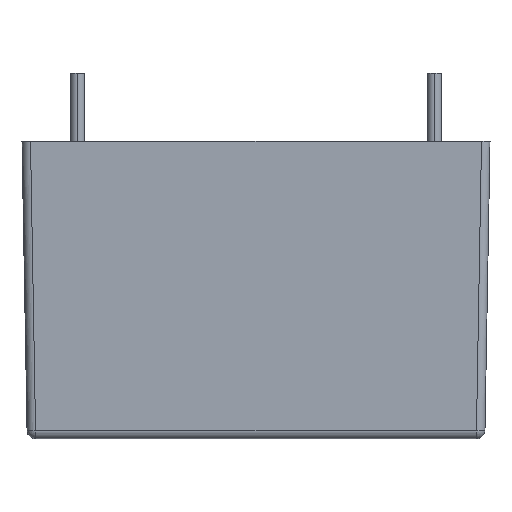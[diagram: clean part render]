
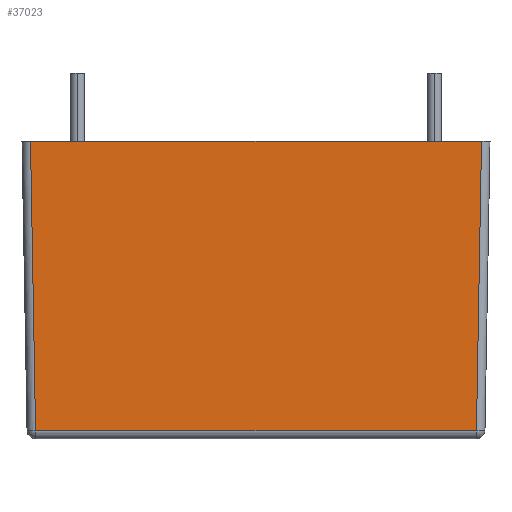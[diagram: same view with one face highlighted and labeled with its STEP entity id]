
A CAD part, left-side view. The second image highlights one B-rep face of the part: STEP entity #37023.
In plain terms, the highlighted planar face has unit normal (-1, 0, -0.018).
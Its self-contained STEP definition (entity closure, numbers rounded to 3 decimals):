
#36325 = EDGE_LOOP ( 'NONE', ( #37019, #37072, #36800, #36798 ) ) ;
#36331 = EDGE_CURVE ( 'NONE', #36854, #36566, #98131, .T. ) ;
#36566 = VERTEX_POINT ( 'NONE', #98229 ) ;
#36798 = ORIENTED_EDGE ( 'NONE', *, *, #36835, .T. ) ;
#36800 = ORIENTED_EDGE ( 'NONE', *, *, #36849, .T. ) ;
#36832 = VERTEX_POINT ( 'NONE', #98419 ) ;
#36833 = VERTEX_POINT ( 'NONE', #98310 ) ;
#36835 = EDGE_CURVE ( 'NONE', #36832, #36566, #98385, .T. ) ;
#36849 = EDGE_CURVE ( 'NONE', #36833, #36832, #98369, .T. ) ;
#36854 = VERTEX_POINT ( 'NONE', #98411 ) ;
#37019 = ORIENTED_EDGE ( 'NONE', *, *, #36331, .F. ) ;
#37023 = ADVANCED_FACE ( 'NONE', ( #98358 ), #98490, .T. ) ;
#37072 = ORIENTED_EDGE ( 'NONE', *, *, #37105, .T. ) ;
#37105 = EDGE_CURVE ( 'NONE', #36854, #36833, #98438, .T. ) ;
#98131 = LINE ( 'NONE', #98210, #98297 ) ;
#98208 = DIRECTION ( 'NONE',  ( 0., -1., 0. ) ) ;
#98210 = CARTESIAN_POINT ( 'NONE',  ( -18.501, 13.751, 16.7 ) ) ;
#98229 = CARTESIAN_POINT ( 'NONE',  ( -18.501, -13.252, 16.7 ) ) ;
#98297 = VECTOR ( 'NONE', #98208, 1000. ) ;
#98310 = CARTESIAN_POINT ( 'NONE',  ( -18.205, 12.955, -0.309 ) ) ;
#98358 = FACE_OUTER_BOUND ( 'NONE', #36325, .T. ) ;
#98368 = CARTESIAN_POINT ( 'NONE',  ( -18.205, -13.446, -0.309 ) ) ;
#98369 = LINE ( 'NONE', #98368, #98500 ) ;
#98381 = DIRECTION ( 'NONE',  ( -0.017, -0.017, 1. ) ) ;
#98382 = VECTOR ( 'NONE', #98381, 1000. ) ;
#98384 = CARTESIAN_POINT ( 'NONE',  ( -18.493, -13.243, 16.229 ) ) ;
#98385 = LINE ( 'NONE', #98384, #98382 ) ;
#98387 = AXIS2_PLACEMENT_3D ( 'NONE', #98478, #98464, #98463 ) ;
#98411 = CARTESIAN_POINT ( 'NONE',  ( -18.501, 13.252, 16.7 ) ) ;
#98419 = CARTESIAN_POINT ( 'NONE',  ( -18.205, -12.955, -0.309 ) ) ;
#98438 = LINE ( 'NONE', #98518, #98517 ) ;
#98463 = DIRECTION ( 'NONE',  ( -0.017, 0., 1. ) ) ;
#98464 = DIRECTION ( 'NONE',  ( -1., 0., -0.017 ) ) ;
#98478 = CARTESIAN_POINT ( 'NONE',  ( -18.501, 13.751, 16.7 ) ) ;
#98490 = PLANE ( 'NONE',  #98387 ) ;
#98499 = DIRECTION ( 'NONE',  ( 0., -1., 0. ) ) ;
#98500 = VECTOR ( 'NONE', #98499, 1000. ) ;
#98516 = DIRECTION ( 'NONE',  ( 0.017, -0.017, -1. ) ) ;
#98517 = VECTOR ( 'NONE', #98516, 1000. ) ;
#98518 = CARTESIAN_POINT ( 'NONE',  ( -18.502, 13.252, 16.709 ) ) ;
